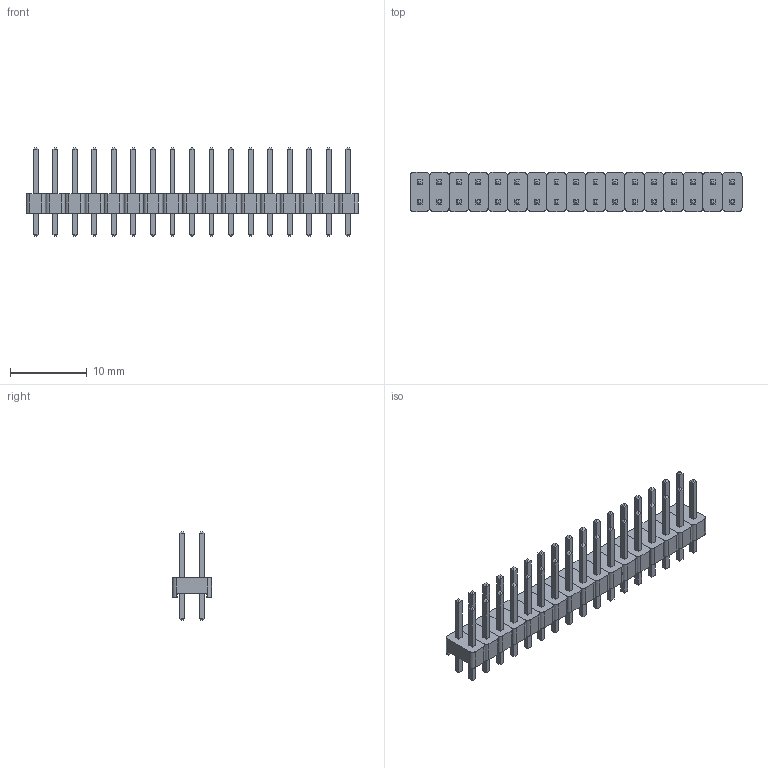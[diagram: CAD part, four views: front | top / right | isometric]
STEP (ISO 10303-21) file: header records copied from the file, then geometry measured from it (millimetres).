
FILE_DESCRIPTION(('FreeCAD Model'),'2;1');
FILE_NAME('Open CASCADE Shape Model','2022-04-06T15:59:28',( 'Engenharia Metaltex'),('Metaltex'), 'Open CASCADE STEP processor 7.5','FreeCAD','Unknown');
FILE_SCHEMA(('AUTOMOTIVE_DESIGN { 1 0 10303 214 1 1 1 1 }'));
Length unit declared in the file: millimetre
Products named in the file (69): BPDC; 17; Base016; Pino033; Pino034; 1; Base; Pino1; Pino2; 2; Base001; Pino003; Pino004; 3; Base002; Pino006; Pino005; 4; Base003; Pino008; Pino007; 5; Base004; Pino009; Pino010; 6; Base005; Pino012; Pino011; 7; Base006; Pino013; Pino014; 8; Base007; Pino015; Pino016; 9; Base008; Pino017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
Assembly tree (68 placements, depth 3):
  BPDC
    17
      Base016
      Pino033
      Pino034
    1
      Base
      Pino1
      Pino2
    2
      Base001
      Pino003
      Pino004
    3
      Base002
      Pino006
      Pino005
    4
      Base003
      Pino008
      Pino007
    5
      Base004
      Pino009
      Pino010
    6
      Base005
      Pino012
      Pino011
    7
      Base006
      Pino013
      Pino014
    8
      Base007
      Pino015
      Pino016
    9
      Base008
      Pino017
      Pino018
    10
      Base009
      Pino019
      Pino020
    11
      Base010
      Pino021
      Pino022
    12
      Base011
      Pino023
      Pino024
    13
      Base012
      Pino025
      Pino026
    14
      Base013
      Pino027
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Bounding box: 43.18 x 5.08 x 11.54 mm (x, y, z)
Volume: 593.7 mm3; surface area: 2186.7 mm2
Topology: 51 solids, 51 shells, 850 faces, 1972 edges, 1224 vertices
Faces by surface type: plane 782, cylinder 68
Entity records: 51019 total; most frequent: CARTESIAN_POINT 8467, DIRECTION 7822, LINE 5644, VECTOR 5644, ORIENTED_EDGE 3944, PCURVE 3944, DEFINITIONAL_REPRESENTATION 3944, EDGE_CURVE 1972
